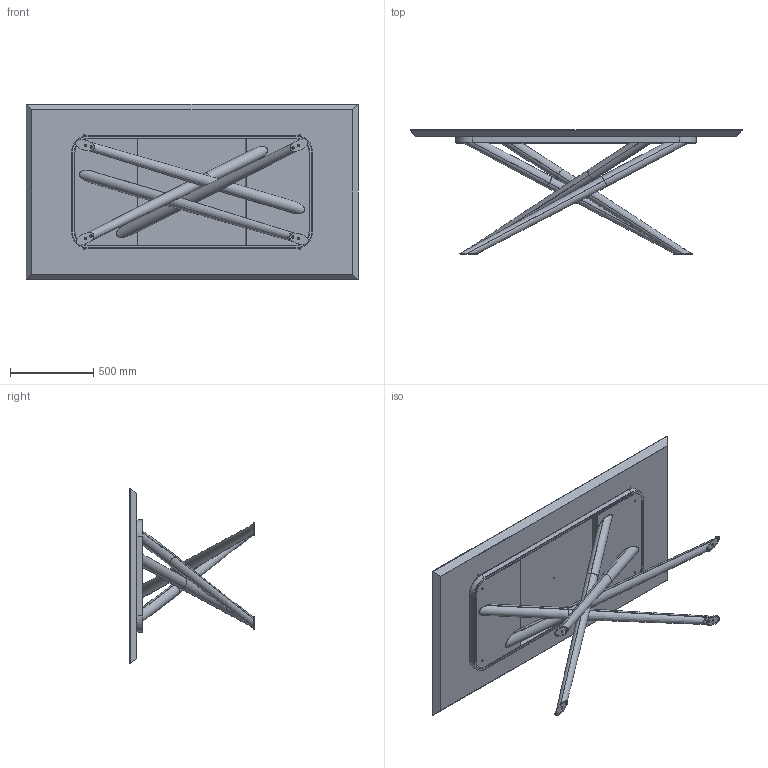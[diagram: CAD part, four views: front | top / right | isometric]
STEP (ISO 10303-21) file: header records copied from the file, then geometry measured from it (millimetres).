
FILE_DESCRIPTION (( 'STEP AP203' ), '1' );
FILE_NAME ('BA21W.STEP', '2024-08-08T05:59:31', ( '' ), ( '' ), 'SwSTEP 2.0', 'SolidWorks 2022', '' );
FILE_SCHEMA (( 'CONFIG_CONTROL_DESIGN' ));
Length unit declared in the file: millimetre
Products named in the file (8): BAB100000-00-BALY BASE GREZZA L240 rettangolare; BAB100000_01-00-Gambe saldate BALY 240_Default<A macchina>; BA21W; TR Fastenings Ltd-M6_M6; BAB100000_02-00-piede per baly 240; BAB100000_03-00-Telaio BALY L240_Default<A macchina>; M6xXXmm_HEX_M6x30mm HEX; W2XCMXX-00-Piani Rettangolari in legno_2000 x 1060
Assembly tree (18 placements, depth 3):
  BA21W
    W2XCMXX-00-Piani Rettangolari in legno_2000 x 1060
    BAB100000-00-BALY BASE GREZZA L240 rettangolare
      BAB100000_01-00-Gambe saldate BALY 240_Default<A macchina>
      BAB100000_03-00-Telaio BALY L240_Default<A macchina>
      BAB100000_02-00-piede per baly 240  x4
      TR Fastenings Ltd-M6_M6  x2
      M6xXXmm_HEX_M6x30mm HEX  x8
Bounding box: 2000 x 747 x 1060 mm (x, y, z)
Volume: 82656108.6 mm3; surface area: 8581195.7 mm2
Topology: 27 solids, 27 shells, 680 faces, 1430 edges, 783 vertices
Faces by surface type: plane 294, cylinder 202, cone 118, torus 48, bspline 18
Entity records: 11562 total; most frequent: CARTESIAN_POINT 2020, DIRECTION 1880, ORIENTED_EDGE 1636, EDGE_CURVE 818, AXIS2_PLACEMENT_3D 726, VERTEX_POINT 474, EDGE_LOOP 444, LINE 428
